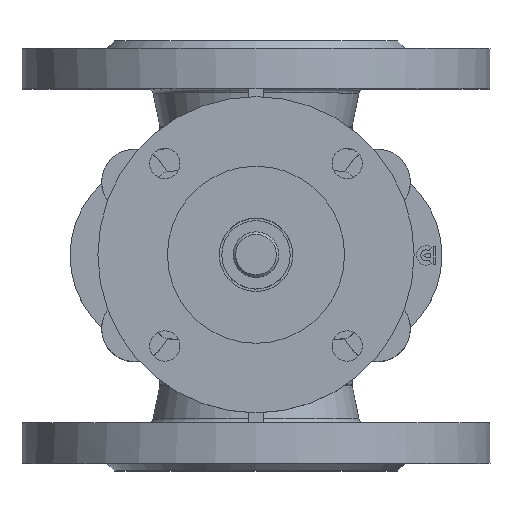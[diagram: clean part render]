
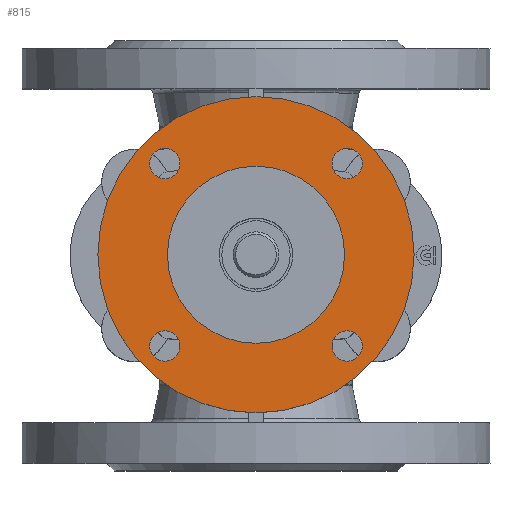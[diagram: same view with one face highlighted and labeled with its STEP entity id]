
A CAD part, top view. The second image highlights one B-rep face of the part: STEP entity #815.
In plain terms, the highlighted planar face has unit normal (0, 0, 1).
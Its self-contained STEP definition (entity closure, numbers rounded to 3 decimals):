
#815=ADVANCED_FACE('',(#2816,#2818,#2820,#2822,#2824,#2826),#2828,.T.);
#2816=FACE_BOUND('',#2817,.T.);
#2817=EDGE_LOOP('',(#4465));
#2818=FACE_BOUND('',#2819,.T.);
#2819=EDGE_LOOP('',(#4466));
#2820=FACE_BOUND('',#2821,.T.);
#2821=EDGE_LOOP('',(#4467));
#2822=FACE_BOUND('',#2823,.T.);
#2823=EDGE_LOOP('',(#4468));
#2824=FACE_BOUND('',#2825,.T.);
#2825=EDGE_LOOP('',(#4469));
#2826=FACE_BOUND('',#2827,.T.);
#2827=EDGE_LOOP('',(#4470));
#2828=PLANE('',#2829);
#2829=AXIS2_PLACEMENT_3D('',#2830,#2831,#2832);
#2830=CARTESIAN_POINT('',(0.,0.,285.));
#2831=DIRECTION('',(0.,0.,1.));
#2832=DIRECTION('',(-1.,0.,0.));
#4465=ORIENTED_EDGE('',*,*,#5432,.F.);
#4466=ORIENTED_EDGE('',*,*,#5433,.T.);
#4467=ORIENTED_EDGE('',*,*,#5434,.T.);
#4468=ORIENTED_EDGE('',*,*,#5435,.T.);
#4469=ORIENTED_EDGE('',*,*,#5486,.T.);
#4470=ORIENTED_EDGE('',*,*,#5436,.T.);
#5432=EDGE_CURVE('',#6183,#6183,#6184,.T.);
#5433=EDGE_CURVE('',#6185,#6185,#6186,.F.);
#5434=EDGE_CURVE('',#6187,#6187,#6188,.F.);
#5435=EDGE_CURVE('',#6189,#6189,#6190,.F.);
#5436=EDGE_CURVE('',#6191,#6191,#6192,.F.);
#5486=EDGE_CURVE('',#6275,#6275,#6276,.T.);
#6183=VERTEX_POINT('',#7961);
#6184=CIRCLE('',#7962,62.5);
#6185=VERTEX_POINT('',#7966);
#6186=CIRCLE('',#7967,6.);
#6187=VERTEX_POINT('',#7971);
#6188=CIRCLE('',#7972,6.);
#6189=VERTEX_POINT('',#7976);
#6190=CIRCLE('',#7977,6.);
#6191=VERTEX_POINT('',#7981);
#6192=CIRCLE('',#7982,6.);
#6275=VERTEX_POINT('',#8207);
#6276=CIRCLE('',#8208,35.);
#7961=CARTESIAN_POINT('',(-62.5,0.,285.));
#7962=AXIS2_PLACEMENT_3D('',#7963,#7964,#7965);
#7963=CARTESIAN_POINT('',(0.,0.,285.));
#7964=DIRECTION('',(0.,0.,-1.));
#7965=DIRECTION('',(-1.,0.,0.));
#7966=CARTESIAN_POINT('',(36.062,-30.062,285.));
#7967=AXIS2_PLACEMENT_3D('',#7968,#7969,#7970);
#7968=CARTESIAN_POINT('',(36.062,-36.062,285.));
#7969=DIRECTION('',(0.,0.,1.));
#7970=DIRECTION('',(0.,1.,0.));
#7971=CARTESIAN_POINT('',(-30.062,-36.062,285.));
#7972=AXIS2_PLACEMENT_3D('',#7973,#7974,#7975);
#7973=CARTESIAN_POINT('',(-36.062,-36.062,285.));
#7974=DIRECTION('',(0.,0.,1.));
#7975=DIRECTION('',(1.,0.,0.));
#7976=CARTESIAN_POINT('',(-36.062,30.062,285.));
#7977=AXIS2_PLACEMENT_3D('',#7978,#7979,#7980);
#7978=CARTESIAN_POINT('',(-36.062,36.062,285.));
#7979=DIRECTION('',(0.,0.,1.));
#7980=DIRECTION('',(0.,-1.,0.));
#7981=CARTESIAN_POINT('',(30.062,36.062,285.));
#7982=AXIS2_PLACEMENT_3D('',#7983,#7984,#7985);
#7983=CARTESIAN_POINT('',(36.062,36.062,285.));
#7984=DIRECTION('',(0.,0.,1.));
#7985=DIRECTION('',(-1.,0.,0.));
#8207=CARTESIAN_POINT('',(-35.,0.,285.));
#8208=AXIS2_PLACEMENT_3D('',#8209,#8210,#8211);
#8209=CARTESIAN_POINT('',(0.,0.,285.));
#8210=DIRECTION('',(0.,0.,-1.));
#8211=DIRECTION('',(-1.,0.,0.));
